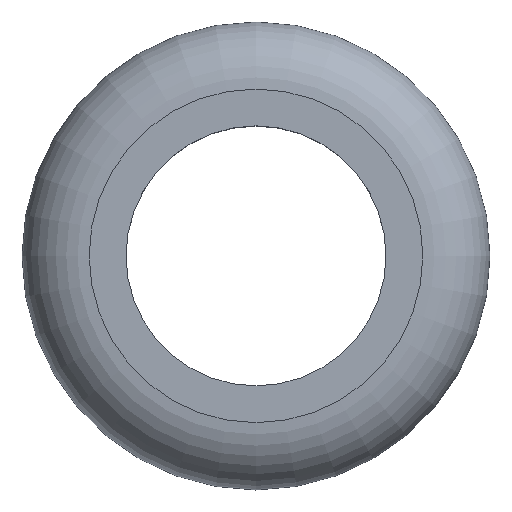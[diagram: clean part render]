
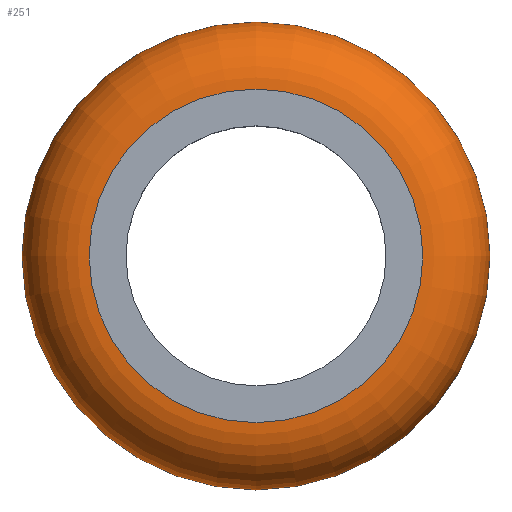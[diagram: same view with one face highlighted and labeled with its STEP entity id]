
A CAD part, top view. The second image highlights one B-rep face of the part: STEP entity #251.
In plain terms, the highlighted toroidal (fillet/blend) face has major radius 3.85 mm and minor radius 1.55 mm.
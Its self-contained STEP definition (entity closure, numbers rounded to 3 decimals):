
#93 = PLANE('',#94);
#94 = AXIS2_PLACEMENT_3D('',#95,#96,#97);
#95 = CARTESIAN_POINT('',(0.,0.,3.5));
#96 = DIRECTION('',(0.,0.,1.));
#97 = DIRECTION('',(1.,0.,-0.));
#161 = CYLINDRICAL_SURFACE('',#162,5.4);
#162 = AXIS2_PLACEMENT_3D('',#163,#164,#165);
#163 = CARTESIAN_POINT('',(0.,0.,1.9));
#164 = DIRECTION('',(0.,0.,1.));
#165 = DIRECTION('',(1.,0.,-0.));
#202 = VERTEX_POINT('',#203);
#203 = CARTESIAN_POINT('',(5.4,0.,1.95));
#224 = EDGE_CURVE('',#202,#202,#225,.T.);
#225 = SURFACE_CURVE('',#226,(#231,#238),.PCURVE_S1.);
#226 = CIRCLE('',#227,5.4);
#227 = AXIS2_PLACEMENT_3D('',#228,#229,#230);
#228 = CARTESIAN_POINT('',(0.,0.,1.95));
#229 = DIRECTION('',(0.,0.,1.));
#230 = DIRECTION('',(1.,0.,-0.));
#231 = PCURVE('',#161,#232);
#232 = DEFINITIONAL_REPRESENTATION('',(#233),#237);
#233 = LINE('',#234,#235);
#234 = CARTESIAN_POINT('',(0.,0.05));
#235 = VECTOR('',#236,1.);
#236 = DIRECTION('',(1.,0.));
#237 = ( GEOMETRIC_REPRESENTATION_CONTEXT(2) 
PARAMETRIC_REPRESENTATION_CONTEXT() REPRESENTATION_CONTEXT('2D SPACE',''
  ) );
#238 = PCURVE('',#239,#244);
#239 = TOROIDAL_SURFACE('',#240,3.85,1.55);
#240 = AXIS2_PLACEMENT_3D('',#241,#242,#243);
#241 = CARTESIAN_POINT('',(0.,0.,1.95));
#242 = DIRECTION('',(-0.,-0.,-1.));
#243 = DIRECTION('',(1.,0.,-0.));
#244 = DEFINITIONAL_REPRESENTATION('',(#245),#249);
#245 = LINE('',#246,#247);
#246 = CARTESIAN_POINT('',(-0.,6.283));
#247 = VECTOR('',#248,1.);
#248 = DIRECTION('',(-1.,0.));
#249 = ( GEOMETRIC_REPRESENTATION_CONTEXT(2) 
PARAMETRIC_REPRESENTATION_CONTEXT() REPRESENTATION_CONTEXT('2D SPACE',''
  ) );
#251 = ADVANCED_FACE('',(#252),#239,.T.);
#252 = FACE_BOUND('',#253,.F.);
#253 = EDGE_LOOP('',(#254,#278,#300,#301));
#254 = ORIENTED_EDGE('',*,*,#255,.T.);
#255 = EDGE_CURVE('',#256,#256,#258,.T.);
#256 = VERTEX_POINT('',#257);
#257 = CARTESIAN_POINT('',(3.85,0.,3.5));
#258 = SURFACE_CURVE('',#259,(#264,#271),.PCURVE_S1.);
#259 = CIRCLE('',#260,3.85);
#260 = AXIS2_PLACEMENT_3D('',#261,#262,#263);
#261 = CARTESIAN_POINT('',(0.,0.,3.5));
#262 = DIRECTION('',(0.,0.,1.));
#263 = DIRECTION('',(1.,0.,-0.));
#264 = PCURVE('',#239,#265);
#265 = DEFINITIONAL_REPRESENTATION('',(#266),#270);
#266 = LINE('',#267,#268);
#267 = CARTESIAN_POINT('',(-0.,4.712));
#268 = VECTOR('',#269,1.);
#269 = DIRECTION('',(-1.,0.));
#270 = ( GEOMETRIC_REPRESENTATION_CONTEXT(2) 
PARAMETRIC_REPRESENTATION_CONTEXT() REPRESENTATION_CONTEXT('2D SPACE',''
  ) );
#271 = PCURVE('',#93,#272);
#272 = DEFINITIONAL_REPRESENTATION('',(#273),#277);
#273 = CIRCLE('',#274,3.85);
#274 = AXIS2_PLACEMENT_2D('',#275,#276);
#275 = CARTESIAN_POINT('',(0.,0.));
#276 = DIRECTION('',(1.,-0.));
#277 = ( GEOMETRIC_REPRESENTATION_CONTEXT(2) 
PARAMETRIC_REPRESENTATION_CONTEXT() REPRESENTATION_CONTEXT('2D SPACE',''
  ) );
#278 = ORIENTED_EDGE('',*,*,#279,.T.);
#279 = EDGE_CURVE('',#256,#202,#280,.T.);
#280 = SEAM_CURVE('',#281,(#286,#293),.PCURVE_S1.);
#281 = CIRCLE('',#282,1.55);
#282 = AXIS2_PLACEMENT_3D('',#283,#284,#285);
#283 = CARTESIAN_POINT('',(3.85,0.,1.95));
#284 = DIRECTION('',(0.,1.,0.));
#285 = DIRECTION('',(0.,0.,1.));
#286 = PCURVE('',#239,#287);
#287 = DEFINITIONAL_REPRESENTATION('',(#288),#292);
#288 = LINE('',#289,#290);
#289 = CARTESIAN_POINT('',(-0.,4.712));
#290 = VECTOR('',#291,1.);
#291 = DIRECTION('',(-0.,1.));
#292 = ( GEOMETRIC_REPRESENTATION_CONTEXT(2) 
PARAMETRIC_REPRESENTATION_CONTEXT() REPRESENTATION_CONTEXT('2D SPACE',''
  ) );
#293 = PCURVE('',#239,#294);
#294 = DEFINITIONAL_REPRESENTATION('',(#295),#299);
#295 = LINE('',#296,#297);
#296 = CARTESIAN_POINT('',(-6.283,4.712));
#297 = VECTOR('',#298,1.);
#298 = DIRECTION('',(-0.,1.));
#299 = ( GEOMETRIC_REPRESENTATION_CONTEXT(2) 
PARAMETRIC_REPRESENTATION_CONTEXT() REPRESENTATION_CONTEXT('2D SPACE',''
  ) );
#300 = ORIENTED_EDGE('',*,*,#224,.F.);
#301 = ORIENTED_EDGE('',*,*,#279,.F.);
